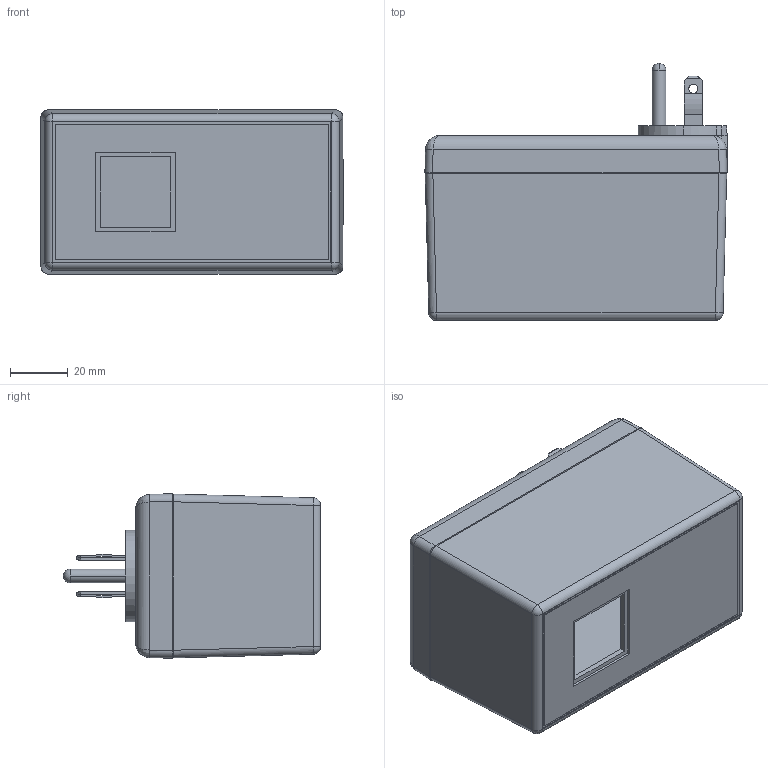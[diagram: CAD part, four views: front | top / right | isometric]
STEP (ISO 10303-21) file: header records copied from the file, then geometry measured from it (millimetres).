
FILE_DESCRIPTION (( 'STEP AP214' ), '1' );
FILE_NAME ('PM2425T13XNT.STEP', '2010-07-15T14:20:39', ( '' ), ( '' ), 'SwSTEP 2.0', 'SolidWorks 2010', '' );
FILE_SCHEMA (( 'AUTOMOTIVE_DESIGN' ));
Length unit declared in the file: inch
Products named in the file (10): TS-2420B AND PM2420_PM2420T1; B2405 ASS''Y_B24053XNT; MPB2405_MPB24053NT; GND-PIN; BLADES; WELD DISC-PS-BK; GND-TAB; SCREWS-HL1-BR; B2405-PCB; PM2425T13XNT
Assembly tree (13 placements, depth 3):
  PM2425T13XNT
    SCREWS-HL1-BR  x4
    TS-2420B AND PM2420_PM2420T1
    B2405-PCB
    B2405 ASS''Y_B24053XNT
      WELD DISC-PS-BK
      GND-TAB
      GND-PIN
      BLADES  x2
      MPB2405_MPB24053NT
Bounding box: 104.6 x 89.03 x 56.95 mm (x, y, z)
Volume: 88060.7 mm3; surface area: 82259.7 mm2
Topology: 12 solids, 12 shells, 964 faces, 2680 edges, 1751 vertices
Faces by surface type: cylinder 522, plane 311, cone 77, bspline 28, sphere 14, torus 12
Entity records: 20937 total; most frequent: CARTESIAN_POINT 6605, ORIENTED_EDGE 3078, DIRECTION 2769, EDGE_CURVE 1539, VERTEX_POINT 1001, AXIS2_PLACEMENT_3D 990, VECTOR 789, LINE 789
